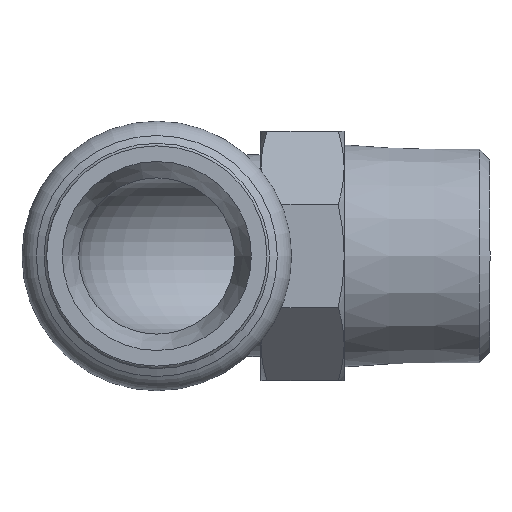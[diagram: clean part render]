
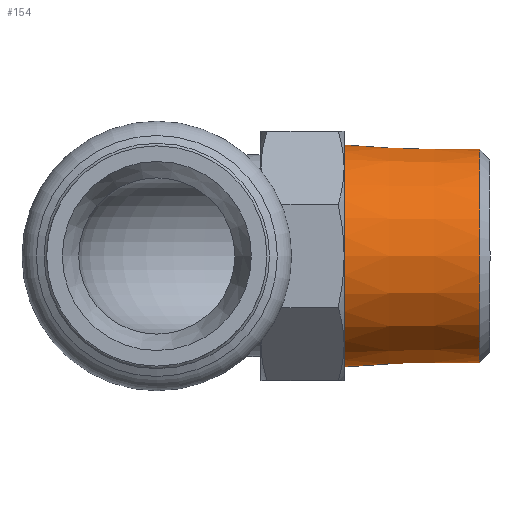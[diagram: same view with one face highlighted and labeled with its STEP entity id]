
A CAD part, left-side view. The second image highlights one B-rep face of the part: STEP entity #154.
In plain terms, the highlighted conical face has half-angle 1.79 degrees and reference radius 10.295 mm.
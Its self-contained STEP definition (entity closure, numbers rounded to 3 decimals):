
#112=CARTESIAN_POINT('',(-10.252,-31.,0.0));
#113=VERTEX_POINT('',#112);
#114=CARTESIAN_POINT('',(0.,-31.,0.));
#115=DIRECTION('',(0.0,-1.0,0.0));
#116=DIRECTION('',(1.0,0.0,0.0));
#117=AXIS2_PLACEMENT_3D('',#114,#115,#116);
#118=CIRCLE('',#117,10.252);
#119=EDGE_CURVE('',#113,#113,#118,.T.);
#135=CARTESIAN_POINT('',(0.,-29.653,0.0));
#136=DIRECTION('',(0.,1.0,0.0));
#137=DIRECTION('',(1.0,0.0,0.0));
#138=AXIS2_PLACEMENT_3D('',#135,#136,#137);
#139=CONICAL_SURFACE('',#138,10.295,1.79);
#140=CARTESIAN_POINT('',(10.659,-18.,0.0));
#141=VERTEX_POINT('',#140);
#142=CARTESIAN_POINT('',(0.,-18.0,0.0));
#143=DIRECTION('',(0.0,1.0,0.0));
#144=DIRECTION('',(1.0,0.0,0.0));
#145=AXIS2_PLACEMENT_3D('',#142,#143,#144);
#146=CIRCLE('',#145,10.659);
#147=EDGE_CURVE('',#141,#141,#146,.T.);
#148=ORIENTED_EDGE('',*,*,#147,.F.);
#149=EDGE_LOOP('',(#148));
#150=FACE_OUTER_BOUND('',#149,.T.);
#151=ORIENTED_EDGE('',*,*,#119,.F.);
#152=EDGE_LOOP('',(#151));
#153=FACE_BOUND('',#152,.T.);
#154=ADVANCED_FACE('',(#150,#153),#139,.T.);
